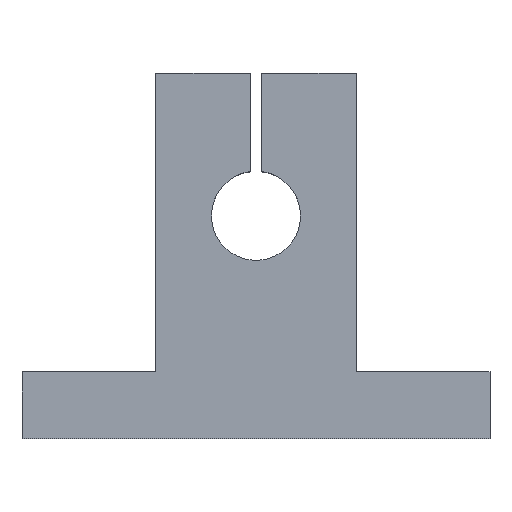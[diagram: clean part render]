
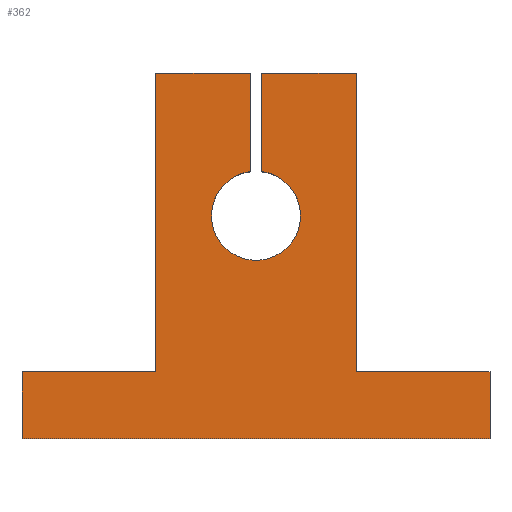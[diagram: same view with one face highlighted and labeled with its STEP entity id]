
A CAD part, top view. The second image highlights one B-rep face of the part: STEP entity #362.
In plain terms, the highlighted planar face has unit normal (0, 0, 1).
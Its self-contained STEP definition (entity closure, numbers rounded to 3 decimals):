
#27=CIRCLE('',#397,4.);
#47=ORIENTED_EDGE('',*,*,#139,.F.);
#48=ORIENTED_EDGE('',*,*,#135,.T.);
#49=ORIENTED_EDGE('',*,*,#140,.T.);
#50=ORIENTED_EDGE('',*,*,#141,.T.);
#51=ORIENTED_EDGE('',*,*,#142,.T.);
#52=ORIENTED_EDGE('',*,*,#143,.T.);
#53=ORIENTED_EDGE('',*,*,#144,.T.);
#54=ORIENTED_EDGE('',*,*,#145,.T.);
#55=ORIENTED_EDGE('',*,*,#146,.T.);
#56=ORIENTED_EDGE('',*,*,#147,.T.);
#57=ORIENTED_EDGE('',*,*,#133,.F.);
#58=ORIENTED_EDGE('',*,*,#148,.F.);
#133=EDGE_CURVE('',#179,#176,#213,.T.);
#135=EDGE_CURVE('',#181,#182,#214,.T.);
#139=EDGE_CURVE('',#181,#185,#218,.T.);
#140=EDGE_CURVE('',#182,#186,#219,.T.);
#141=EDGE_CURVE('',#186,#187,#220,.T.);
#142=EDGE_CURVE('',#187,#188,#221,.T.);
#143=EDGE_CURVE('',#188,#189,#222,.T.);
#144=EDGE_CURVE('',#189,#190,#223,.T.);
#145=EDGE_CURVE('',#190,#191,#224,.T.);
#146=EDGE_CURVE('',#191,#192,#225,.T.);
#147=EDGE_CURVE('',#192,#176,#226,.T.);
#148=EDGE_CURVE('',#185,#179,#27,.T.);
#176=VERTEX_POINT('',#528);
#179=VERTEX_POINT('',#533);
#181=VERTEX_POINT('',#539);
#182=VERTEX_POINT('',#540);
#185=VERTEX_POINT('',#548);
#186=VERTEX_POINT('',#550);
#187=VERTEX_POINT('',#552);
#188=VERTEX_POINT('',#554);
#189=VERTEX_POINT('',#556);
#190=VERTEX_POINT('',#558);
#191=VERTEX_POINT('',#560);
#192=VERTEX_POINT('',#562);
#213=LINE('',#534,#247);
#214=LINE('',#538,#248);
#218=LINE('',#547,#252);
#219=LINE('',#549,#253);
#220=LINE('',#551,#254);
#221=LINE('',#553,#255);
#222=LINE('',#555,#256);
#223=LINE('',#557,#257);
#224=LINE('',#559,#258);
#225=LINE('',#561,#259);
#226=LINE('',#563,#260);
#247=VECTOR('',#432,1000.);
#248=VECTOR('',#437,1000.);
#252=VECTOR('',#443,1000.);
#253=VECTOR('',#444,1000.);
#254=VECTOR('',#445,1000.);
#255=VECTOR('',#446,1000.);
#256=VECTOR('',#447,1000.);
#257=VECTOR('',#448,1000.);
#258=VECTOR('',#449,1000.);
#259=VECTOR('',#450,1000.);
#260=VECTOR('',#451,1000.);
#281=EDGE_LOOP('',(#47,#48,#49,#50,#51,#52,#53,#54,#55,#56,#57,#58));
#315=FACE_BOUND('',#281,.T.);
#348=PLANE('',#396);
#362=ADVANCED_FACE('',(#315),#348,.T.);
#396=AXIS2_PLACEMENT_3D('',#546,#441,#442);
#397=AXIS2_PLACEMENT_3D('',#564,#452,#453);
#432=DIRECTION('',(0.,1.,0.));
#437=DIRECTION('',(-1.,0.,0.));
#441=DIRECTION('',(0.,0.,1.));
#442=DIRECTION('',(1.,0.,0.));
#443=DIRECTION('',(0.,-1.,0.));
#444=DIRECTION('',(0.,-1.,0.));
#445=DIRECTION('',(-1.,0.,0.));
#446=DIRECTION('',(0.,-1.,0.));
#447=DIRECTION('',(1.,0.,0.));
#448=DIRECTION('',(0.,1.,0.));
#449=DIRECTION('',(-1.,0.,0.));
#450=DIRECTION('',(0.,1.,0.));
#451=DIRECTION('',(-1.,0.,0.));
#452=DIRECTION('',(0.,0.,1.));
#453=DIRECTION('',(1.,0.,0.));
#528=CARTESIAN_POINT('',(0.5,12.8,7.));
#533=CARTESIAN_POINT('',(0.5,3.969,7.));
#534=CARTESIAN_POINT('',(0.5,14.254,7.));
#538=CARTESIAN_POINT('',(9.,12.8,7.));
#539=CARTESIAN_POINT('',(-0.5,12.8,7.));
#540=CARTESIAN_POINT('',(-9.,12.8,7.));
#546=CARTESIAN_POINT('',(21.,-14.,7.));
#547=CARTESIAN_POINT('',(-0.5,14.254,7.));
#548=CARTESIAN_POINT('',(-0.5,3.969,7.));
#549=CARTESIAN_POINT('',(-9.,-14.,7.));
#550=CARTESIAN_POINT('',(-9.,-14.,7.));
#551=CARTESIAN_POINT('',(-21.,-14.,7.));
#552=CARTESIAN_POINT('',(-21.,-14.,7.));
#553=CARTESIAN_POINT('',(-21.,-20.,7.));
#554=CARTESIAN_POINT('',(-21.,-20.,7.));
#555=CARTESIAN_POINT('',(-21.,-20.,7.));
#556=CARTESIAN_POINT('',(21.,-20.,7.));
#557=CARTESIAN_POINT('',(21.,-20.,7.));
#558=CARTESIAN_POINT('',(21.,-14.,7.));
#559=CARTESIAN_POINT('',(21.,-14.,7.));
#560=CARTESIAN_POINT('',(9.,-14.,7.));
#561=CARTESIAN_POINT('',(9.,-14.,7.));
#562=CARTESIAN_POINT('',(9.,12.8,7.));
#563=CARTESIAN_POINT('',(9.,12.8,7.));
#564=CARTESIAN_POINT('',(0.,0.,7.));
